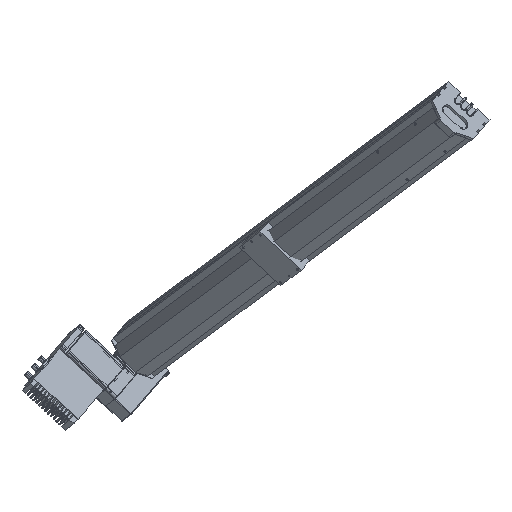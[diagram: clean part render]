
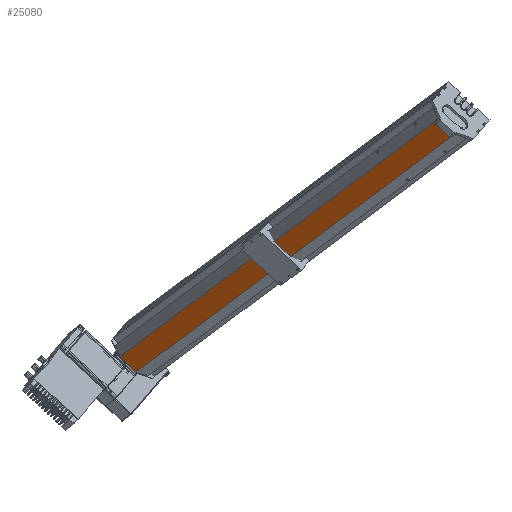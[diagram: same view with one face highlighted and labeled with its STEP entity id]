
A CAD part, top view. The second image highlights one B-rep face of the part: STEP entity #25080.
In plain terms, the highlighted planar face has unit normal (-0.597, -0.693, 0.405) as drawn and (0, 1, 0) by its records, which use the part's own axes.
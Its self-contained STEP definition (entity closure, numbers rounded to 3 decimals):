
#13203 = DIRECTION ( 'NONE',  ( 0., 0., -1. ) ) ;
#13204 = VECTOR ( 'NONE', #13203, 1000. ) ;
#13206 = CARTESIAN_POINT ( 'NONE',  ( 20., 61.75, 1700. ) ) ;
#13270 = LINE ( 'NONE', #13206, #13204 ) ;
#13717 = CARTESIAN_POINT ( 'NONE',  ( 20., 61.75, 5.114 ) ) ;
#13746 = CARTESIAN_POINT ( 'NONE',  ( 20., 61.75, 0. ) ) ;
#15109 = CARTESIAN_POINT ( 'NONE',  ( 20., 61.75, 1700. ) ) ;
#15163 = VECTOR ( 'NONE', #15215, 1000. ) ;
#15215 = DIRECTION ( 'NONE',  ( 0., 0., -1. ) ) ;
#15291 = LINE ( 'NONE', #15109, #15163 ) ;
#16077 = CARTESIAN_POINT ( 'NONE',  ( 20., 61.75, 1700. ) ) ;
#16115 = CARTESIAN_POINT ( 'NONE',  ( -20., 61.75, 1700. ) ) ;
#16436 = CARTESIAN_POINT ( 'NONE',  ( 20., 61.75, 1700. ) ) ;
#16437 = LINE ( 'NONE', #16436, #16482 ) ;
#16482 = VECTOR ( 'NONE', #16586, 1000. ) ;
#16582 = DIRECTION ( 'NONE',  ( 0., 0., -1. ) ) ;
#16583 = VECTOR ( 'NONE', #16582, 1000. ) ;
#16584 = CARTESIAN_POINT ( 'NONE',  ( -20., 61.75, 1700. ) ) ;
#16585 = LINE ( 'NONE', #16584, #16583 ) ;
#16586 = DIRECTION ( 'NONE',  ( -1., 0., 0. ) ) ;
#16896 = CARTESIAN_POINT ( 'NONE',  ( 20., 61.75, 1700. ) ) ;
#16908 = DIRECTION ( 'NONE',  ( 0., 0., -1. ) ) ;
#16913 = DIRECTION ( 'NONE',  ( 0., -1., 0. ) ) ;
#16917 = AXIS2_PLACEMENT_3D ( 'NONE', #16896, #16913, #16908 ) ;
#16919 = CARTESIAN_POINT ( 'NONE',  ( -20., 61.75, 0. ) ) ;
#16920 = PLANE ( 'NONE',  #16917 ) ;
#16941 = VECTOR ( 'NONE', #16943, 1000. ) ;
#16943 = DIRECTION ( 'NONE',  ( -1., 0., 0. ) ) ;
#17002 = FACE_OUTER_BOUND ( 'NONE', #24660, .T. ) ;
#17028 = CARTESIAN_POINT ( 'NONE',  ( 20., 61.75, 0. ) ) ;
#17029 = LINE ( 'NONE', #17028, #16941 ) ;
#24046 = EDGE_CURVE ( 'NONE', #24098, #24099, #13270, .T. ) ;
#24098 = VERTEX_POINT ( 'NONE', #13717 ) ;
#24099 = VERTEX_POINT ( 'NONE', #13746 ) ;
#24660 = EDGE_LOOP ( 'NONE', ( #25084, #25082, #24994, #24671, #25091 ) ) ;
#24671 = ORIENTED_EDGE ( 'NONE', *, *, #24672, .T. ) ;
#24672 = EDGE_CURVE ( 'NONE', #24920, #24098, #15291, .T. ) ;
#24920 = VERTEX_POINT ( 'NONE', #16077 ) ;
#24922 = VERTEX_POINT ( 'NONE', #16115 ) ;
#24994 = ORIENTED_EDGE ( 'NONE', *, *, #24995, .F. ) ;
#24995 = EDGE_CURVE ( 'NONE', #24920, #24922, #16437, .T. ) ;
#24998 = EDGE_CURVE ( 'NONE', #24922, #25081, #16585, .T. ) ;
#25080 = ADVANCED_FACE ( 'NONE', ( #17002 ), #16920, .F. ) ;
#25081 = VERTEX_POINT ( 'NONE', #16919 ) ;
#25082 = ORIENTED_EDGE ( 'NONE', *, *, #24998, .F. ) ;
#25084 = ORIENTED_EDGE ( 'NONE', *, *, #25086, .T. ) ;
#25086 = EDGE_CURVE ( 'NONE', #24099, #25081, #17029, .T. ) ;
#25091 = ORIENTED_EDGE ( 'NONE', *, *, #24046, .T. ) ;
